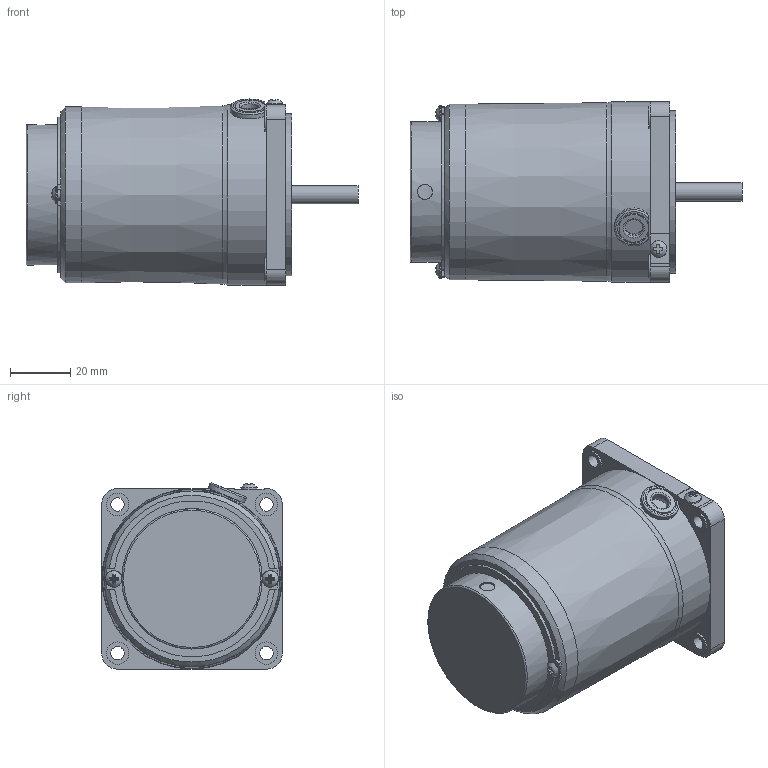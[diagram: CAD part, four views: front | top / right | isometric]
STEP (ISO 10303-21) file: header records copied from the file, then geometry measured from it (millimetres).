
FILE_DESCRIPTION(/* description */ (''),/* implementation_level */ '2;1');
FILE_NAME(/* name */ 'E:\도면작업\2016\0704) 미주향 SG 도면\3D MOTOR\SPEED CONTROL TYPE\SG6I(R)06S_-S12(24).stp',/* time_stamp */ '2017-08-21T10:54:26+09:00',/* author */ ('jy-jung'),/* organization */ (''),/* preprocessor_version */ 'ST-DEVELOPER v15.6',/* originating_system */ 'Autodesk Inventor 2015',/* authorisation */ '');
FILE_SCHEMA (('AUTOMOTIVE_DESIGN { 1 0 10303 214 3 1 1 }'));
Length unit declared in the file: millimetre
Products named in the file (1): 부품27
Bounding box: 110.5 x 60 x 61.91 mm (x, y, z)
Volume: 230228.3 mm3; surface area: 25532.8 mm2
Topology: 1 solids, 2 shells, 172 faces, 462 edges, 299 vertices
Faces by surface type: plane 107, cylinder 51, torus 8, bspline 3, cone 3
Full cylindrical faces by diameter (mm): 3 x2, 4.5 x4, 5 x1, 5.6 x1, 6 x2, 7.5 x4, 10.1 x1, 25 x1, 46.7 x1, 54 x1, 58.5 x1, 60 x1
Entity records: 5810 total; most frequent: CARTESIAN_POINT 1455, ORIENTED_EDGE 848, DIRECTION 836, EDGE_CURVE 424, AXIS2_PLACEMENT_3D 302, VERTEX_POINT 290, LINE 232, VECTOR 232
